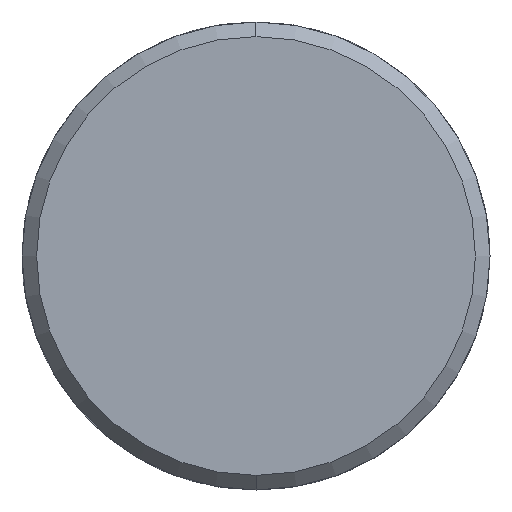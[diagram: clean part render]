
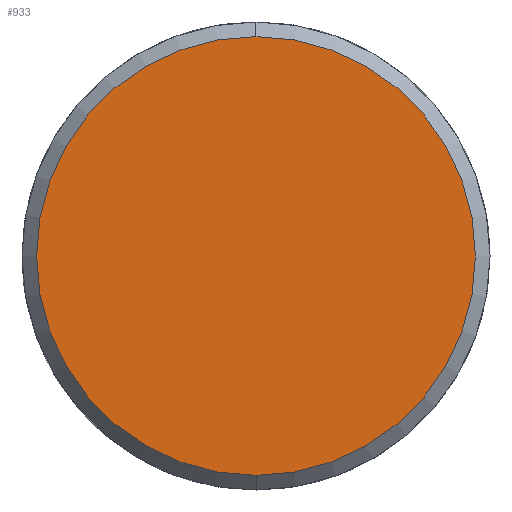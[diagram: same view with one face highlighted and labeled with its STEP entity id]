
A CAD part, left-side view. The second image highlights one B-rep face of the part: STEP entity #933.
In plain terms, the highlighted planar face has unit normal (-1, 0, 0).
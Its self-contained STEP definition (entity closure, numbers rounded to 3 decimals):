
#865=CARTESIAN_POINT('Vertex',(-6.,0.,-15.)) ;
#868=CARTESIAN_POINT('Axis2P3D Location',(-6.,0.,0.)) ;
#872=CARTESIAN_POINT('Vertex',(-6.,15.,0.)) ;
#875=CARTESIAN_POINT('Axis2P3D Location',(-6.,0.,0.)) ;
#879=CARTESIAN_POINT('Vertex',(-6.,0.,15.)) ;
#901=CARTESIAN_POINT('Axis2P3D Location',(-6.,0.,0.)) ;
#905=CARTESIAN_POINT('Vertex',(-6.,-15.,0.)) ;
#908=CARTESIAN_POINT('Axis2P3D Location',(-6.,0.,0.)) ;
#922=CARTESIAN_POINT('Axis2P3D Location',(-6.,0.,0.)) ;
#869=DIRECTION('Axis2P3D Direction',(1.,0.,-0.)) ;
#876=DIRECTION('Axis2P3D Direction',(1.,0.,-0.)) ;
#902=DIRECTION('Axis2P3D Direction',(1.,0.,-0.)) ;
#909=DIRECTION('Axis2P3D Direction',(1.,0.,-0.)) ;
#923=DIRECTION('Axis2P3D Direction',(1.,0.,-0.)) ;
#924=DIRECTION('Axis2P3D XDirection',(-0.,0.,-1.)) ;
#870=AXIS2_PLACEMENT_3D('Circle Axis2P3D',#868,#869,$) ;
#877=AXIS2_PLACEMENT_3D('Circle Axis2P3D',#875,#876,$) ;
#903=AXIS2_PLACEMENT_3D('Circle Axis2P3D',#901,#902,$) ;
#910=AXIS2_PLACEMENT_3D('Circle Axis2P3D',#908,#909,$) ;
#925=AXIS2_PLACEMENT_3D('Plane Axis2P3D',#922,#923,#924) ;
#928=ORIENTED_EDGE('',*,*,#874,.F.) ;
#929=ORIENTED_EDGE('',*,*,#912,.F.) ;
#930=ORIENTED_EDGE('',*,*,#907,.F.) ;
#931=ORIENTED_EDGE('',*,*,#881,.F.) ;
#933=ADVANCED_FACE('351-20X46X70',(#932),#926,.F.) ;
#871=CIRCLE('generated circle',#870,15.) ;
#878=CIRCLE('generated circle',#877,15.) ;
#904=CIRCLE('generated circle',#903,15.) ;
#911=CIRCLE('generated circle',#910,15.) ;
#874=EDGE_CURVE('',#866,#873,#871,.T.) ;
#881=EDGE_CURVE('',#873,#880,#878,.T.) ;
#907=EDGE_CURVE('',#880,#906,#904,.T.) ;
#912=EDGE_CURVE('',#906,#866,#911,.T.) ;
#927=EDGE_LOOP('',(#928,#929,#930,#931)) ;
#932=FACE_OUTER_BOUND('',#927,.T.) ;
#926=PLANE('Plane',#925) ;
#866=VERTEX_POINT('',#865) ;
#873=VERTEX_POINT('',#872) ;
#880=VERTEX_POINT('',#879) ;
#906=VERTEX_POINT('',#905) ;
